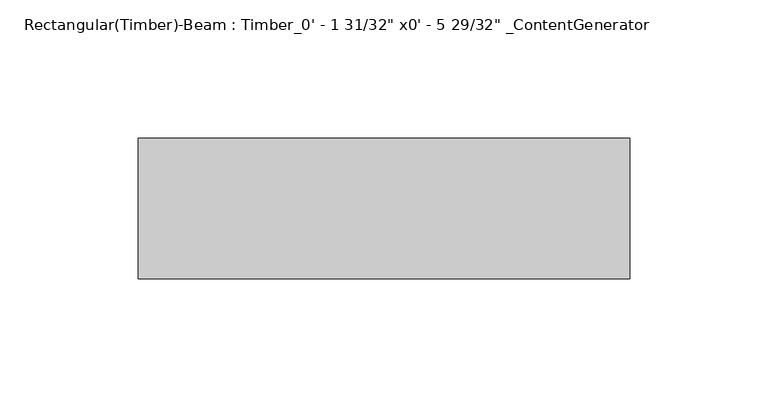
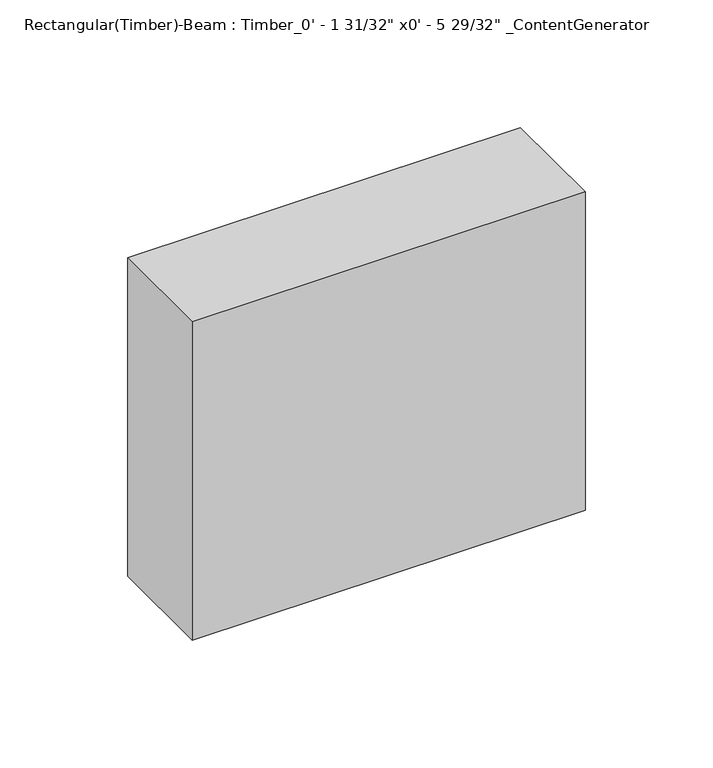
"""IFC4 building model written with IfcOpenShell, lengths in millimetres: beam geometry."""

import ifcopenshell
import ifcopenshell.guid

model = None  # the IFC model being written
_history = None  # IfcOwnerHistory: only IFC2X3 demands one
_inside = {}  # id of a spatial element -> (the spatial element, [elements in it])
_under = {}  # id of a project, library or spatial element -> (it, [spatial elements below it])
_declared = {}  # id of a project -> (the project, [libraries it declares])
_typed = {}  # id of a type object -> (the type object, [elements of that type])
_made_of = {}  # id of a material, layer set ... -> (it, [elements and type objects made of it])


def new_model(schema):
    """Start an empty IFC model of exactly this schema.

    Asked for "IFC4X3", IfcOpenShell would pick the latest addendum, in which some entities
    have other attributes; the version numbers below select the first issue.
    IFC2X3 requires an IfcOwnerHistory on every rooted entity: one is made here for all.
    """
    global model, _history
    if schema == "IFC4X3":
        model = ifcopenshell.file(schema_version=(4, 3, 0, 0))
    else:
        model = ifcopenshell.file(schema=schema)
    _inside.clear()
    _under.clear()
    _declared.clear()
    _typed.clear()
    _made_of.clear()
    _history = None
    if model.schema == "IFC2X3":
        org = make("IfcOrganization", Name="unknown")
        user = make(
            "IfcPersonAndOrganization",
            ThePerson=make("IfcPerson", FamilyName="unknown"),
            TheOrganization=org,
        )
        app = make(
            "IfcApplication",
            ApplicationDeveloper=org,
            Version="unknown",
            ApplicationFullName="unknown",
            ApplicationIdentifier="unknown",
        )
        _history = make(
            "IfcOwnerHistory",
            OwningUser=user,
            OwningApplication=app,
            ChangeAction="ADDED",
            CreationDate=0,
        )
    return model


def make(cls, **values):
    """One entity of the class cls with the attributes given. An attribute that is None is left unset."""
    return model.create_entity(
        cls, **{name: value for name, value in values.items() if value is not None}
    )


def rooted(cls, **values):
    """An entity with a GlobalId (a new one), such as an element, a storey or a relation."""
    return make(cls, GlobalId=ifcopenshell.guid.new(), OwnerHistory=_history, **values)


def si_unit(unit_type, name, prefix=None):
    """IfcSIUnit, for example si_unit("LENGTHUNIT", "METRE", prefix="MILLI")."""
    return make("IfcSIUnit", UnitType=unit_type, Prefix=prefix, Name=name)


def assignment(units):
    """IfcUnitAssignment: the units of a project."""
    return None if units is None else make("IfcUnitAssignment", Units=units)


def point(xyz):
    """IfcCartesianPoint."""
    return None if xyz is None else make("IfcCartesianPoint", Coordinates=xyz)


def direction(xyz):
    """IfcDirection."""
    return None if xyz is None else make("IfcDirection", DirectionRatios=xyz)


def frame(location, z_axis=None, x_axis=None):
    """IfcAxis2Placement3D, a coordinate frame: its origin and axes. An axis left out is left unset."""
    return make(
        "IfcAxis2Placement3D",
        Location=point(location),
        Axis=direction(z_axis),
        RefDirection=direction(x_axis),
    )


def origin():
    """The frame at (0, 0, 0) with its axes left unset."""
    return frame((0.0, 0.0, 0.0))


def place(relative_to, where):
    """IfcLocalPlacement: puts the frame where relative to a parent placement (None: the world)."""
    return make(
        "IfcLocalPlacement", PlacementRelTo=relative_to, RelativePlacement=where
    )


def context(
    kind, dimensions, precision=None, world=None, true_north=None, identifier=None
):
    """IfcGeometricRepresentationContext, for example the 3D "Model" context."""
    return make(
        "IfcGeometricRepresentationContext",
        ContextIdentifier=identifier,
        ContextType=kind,
        CoordinateSpaceDimension=dimensions,
        Precision=precision,
        WorldCoordinateSystem=world,
        TrueNorth=true_north,
    )


def project(units=None, contexts=None):
    """IfcProject with its units and contexts."""
    return rooted(
        "IfcProject",
        Name="project",
        RepresentationContexts=contexts,
        UnitsInContext=assignment(units),
    )


def spatial(cls, under=None, at=None, **own):
    """A site, building, storey or space (cls), placed at a placement, below another one or the project."""
    s = rooted(cls, ObjectPlacement=at, **own)
    if under is not None:
        _under.setdefault(under.id(), (under, []))[1].append(s)
    return s


def polyline(points):
    """IfcPolyline through the points."""
    return make("IfcPolyline", Points=[point(p) for p in points])


def outline(outer, holes=None, kind="AREA"):
    """IfcArbitraryClosedProfileDef: a profile drawn as a closed curve; with holes, ...WithVoids."""
    if holes is None:
        return make("IfcArbitraryClosedProfileDef", ProfileType=kind, OuterCurve=outer)
    return make(
        "IfcArbitraryProfileDefWithVoids",
        ProfileType=kind,
        OuterCurve=outer,
        InnerCurves=holes,
    )


def extrude(swept, where, along, depth):
    """IfcExtrudedAreaSolid: the profile swept, set in the frame where, extruded along a direction by depth."""
    return make(
        "IfcExtrudedAreaSolid",
        SweptArea=swept,
        Position=where,
        ExtrudedDirection=direction(along),
        Depth=depth,
    )


def shape(context_of_items, identifier, shape_type, items):
    """IfcShapeRepresentation: the items that make up one representation, for example the "Body"."""
    return make(
        "IfcShapeRepresentation",
        ContextOfItems=context_of_items,
        RepresentationIdentifier=identifier,
        RepresentationType=shape_type,
        Items=items,
    )


def source(mapping_origin, context_of_items, identifier, shape_type, items):
    """IfcRepresentationMap: a shape defined once, which mapped items show again and again."""
    return make(
        "IfcRepresentationMap",
        MappingOrigin=mapping_origin,
        MappedRepresentation=shape(context_of_items, identifier, shape_type, items),
    )


def transform(
    local_origin,
    x_axis=None,
    y_axis=None,
    z_axis=None,
    scale=None,
    scale2=None,
    scale3=None,
    uniform=True,
):
    """IfcCartesianTransformationOperator3D, or its non-uniform kind. x_axis, y_axis, z_axis: its Axis1, 2, 3."""
    if uniform:
        return make(
            "IfcCartesianTransformationOperator3D",
            Axis1=direction(x_axis),
            Axis2=direction(y_axis),
            LocalOrigin=point(local_origin),
            Scale=scale,
            Axis3=direction(z_axis),
        )
    return make(
        "IfcCartesianTransformationOperator3DnonUniform",
        Axis1=direction(x_axis),
        Axis2=direction(y_axis),
        LocalOrigin=point(local_origin),
        Scale=scale,
        Axis3=direction(z_axis),
        Scale2=scale2,
        Scale3=scale3,
    )


def mapped(mapping_source, mapping_target):
    """IfcMappedItem: shows the shape of a source again, moved by a transform."""
    return make(
        "IfcMappedItem", MappingSource=mapping_source, MappingTarget=mapping_target
    )


def made_of(thing, what):
    """Note that an element or type object is made of a material, layer set ...; save() writes the relation."""
    if what is not None:
        _made_of.setdefault(what.id(), (what, []))[1].append(thing)
    return thing


def element(
    cls,
    number,
    at=None,
    inside=None,
    cuts=None,
    type_object=None,
    material=None,
    context=None,
    identifier="Body",
    shape_type=None,
    held_by="IfcProductDefinitionShape",
    body=None,
    shapes=None,
    **own,
):
    """One element of the class cls, such as IfcWall. Its Tag is "e" and its number.

    at: its placement. inside: the storey or other place that contains it. cuts: it is an
    opening in that element (IfcRelVoidsElement). A single representation is given by context,
    identifier, shape_type and body (its items); several are given by shapes. held_by: the class
    of the entity that holds the representations. save() writes the other relations.
    """
    e = rooted(cls, Tag="e%d" % number, ObjectPlacement=at, **own)
    if body is not None:
        shapes = [shape(context, identifier, shape_type, body)]
    if shapes is not None:
        e.Representation = make(held_by, Representations=shapes)
    if inside is not None:
        _inside.setdefault(inside.id(), (inside, []))[1].append(e)
    if cuts is not None:
        rooted(
            "IfcRelVoidsElement", RelatingBuildingElement=cuts, RelatedOpeningElement=e
        )
    if type_object is not None:
        _typed.setdefault(type_object.id(), (type_object, []))[1].append(e)
    return made_of(e, material)


def aggregate(whole, parts):
    """IfcRelAggregates: a whole, such as a stair, and the parts it consists of."""
    return rooted("IfcRelAggregates", RelatingObject=whole, RelatedObjects=parts)


def save(model, path):
    """Write the relations noted so far, then the file.

    IfcRelAggregates (storeys below a building ...), IfcRelContainedInSpatialStructure (elements
    in a storey), IfcRelDefinesByType, IfcRelAssociatesMaterial and IfcRelDeclares: one each for
    every whole, place, type object, material and project.
    """
    for whole, parts in _under.values():
        aggregate(whole, parts)
    for where, things in _inside.values():
        rooted(
            "IfcRelContainedInSpatialStructure",
            RelatedElements=things,
            RelatingStructure=where,
        )
    for kind, things in _typed.values():
        rooted("IfcRelDefinesByType", RelatedObjects=things, RelatingType=kind)
    for what, things in _made_of.values():
        rooted("IfcRelAssociatesMaterial", RelatedObjects=things, RelatingMaterial=what)
    for by, libraries in _declared.values():
        rooted("IfcRelDeclares", RelatingContext=by, RelatedDefinitions=libraries)
    model.write(path)


def beam_0c873c21(model_context):
    return source(origin(), model_context, "Body", "SweptSolid", [
        extrude(outline(polyline([(88.905, 25.4), (88.905, -25.4), (-88.905, -25.4), (-88.905, 25.4), (88.905, 25.4)])), frame((0.0, 0.0, -76.2), z_axis=(0.0, 0.0, 1.0), x_axis=(1.0, 0.0, 0.0)), (0.0, 0.0, 1.0), 152.4),
    ])


if __name__ == "__main__":
    model = new_model("IFC4")
    model_context = context("Model", 3, world=origin())
    ifc_project = project(units=[si_unit("LENGTHUNIT", "METRE", prefix="MILLI")], contexts=[model_context])
    site = spatial("IfcSite", under=ifc_project)
    building = spatial("IfcBuilding", under=site)
    placement = place(None, origin())
    beam_shape = beam_0c873c21(model_context)
    element("IfcBeam", 1, ObjectType="Rectangular(Timber)-Beam : Timber_0' - 1 31/32\" x0' - 5 29/32\" _ContentGenerator", at=placement, inside=building, context=model_context, shape_type="MappedRepresentation", body=[
        mapped(beam_shape, transform((0.0, 0.0, 0.0), x_axis=(1.0, 0.0, 0.0), y_axis=(0.0, 1.0, 0.0), z_axis=(0.0, 0.0, 1.0))),
    ])
    save(model, "model.ifc")
